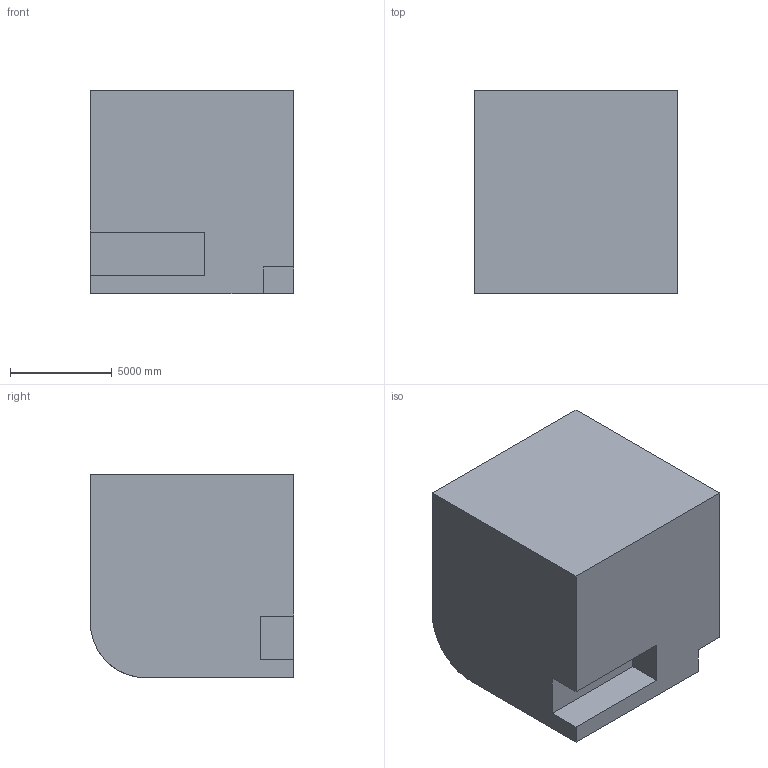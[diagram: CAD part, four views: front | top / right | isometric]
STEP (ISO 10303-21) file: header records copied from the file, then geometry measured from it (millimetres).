
FILE_DESCRIPTION (( 'STEP AP203' ), '1' );
FILE_NAME ('99.STEP', '2022-08-31T11:33:35', ( 'user' ), ( '' ), 'SwSTEP 2.0', 'SolidWorks 2021', '' );
FILE_SCHEMA (( 'CONFIG_CONTROL_DESIGN' ));
Length unit declared in the file: centimetre
Products named in the file (1): 99
Bounding box: 10000 x 10000 x 10000 mm (x, y, z)
Volume: 899355952432.3 mm3; surface area: 688675852.8 mm2
Topology: 1 solids, 1 shells, 24 faces, 66 edges, 44 vertices
Faces by surface type: plane 23, cylinder 1
Entity records: 831 total; most frequent: CARTESIAN_POINT 141, ORIENTED_EDGE 132, DIRECTION 118, EDGE_CURVE 66, LINE 60, VECTOR 60, VERTEX_POINT 44, AXIS2_PLACEMENT_3D 29
